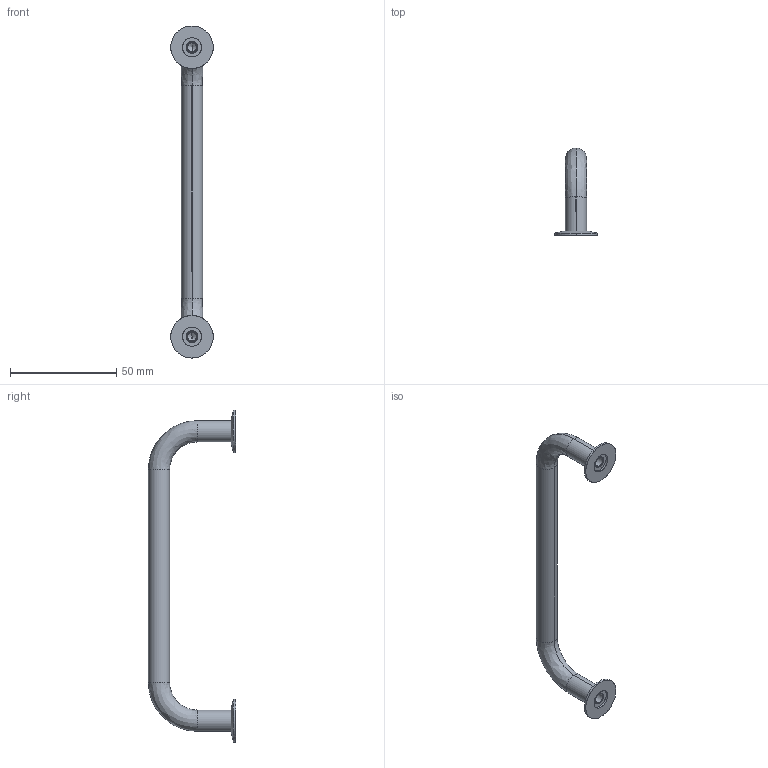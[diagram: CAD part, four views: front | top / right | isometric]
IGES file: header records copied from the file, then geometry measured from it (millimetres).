
Start section: SolidWorks IGES file using analytic representation for surfaces
Global section: file name: C:\Documents and Settings\IANO\Desktop\Temp File\Process pending\PCN pending\78700_v2\78700_v2_20170116_IGES\78700.W0514.igs; native system: SolidWorks 2009; preprocessor: SolidWorks 2009; author: IANO; date: 170310.095901; units: millimetre
Bounding box: 20 x 41 x 156 mm (x, y, z)
Surface area: 7708.4 mm2 (no closed solid volume)
Topology: 0 solids, 0 shells, 52 faces, 808 edges, 804 vertices
Faces by surface type: revolution 38, bspline 14
